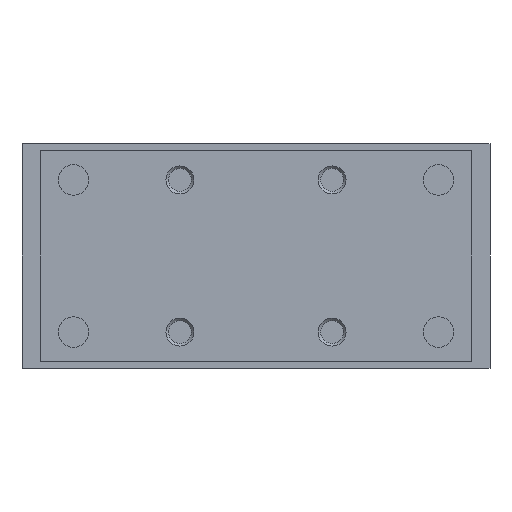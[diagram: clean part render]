
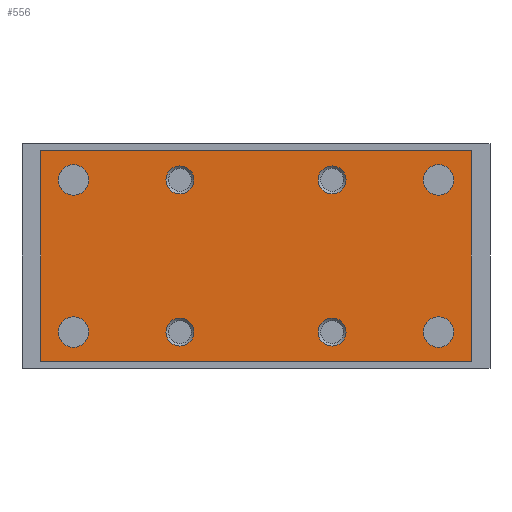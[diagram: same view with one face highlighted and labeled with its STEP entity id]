
A CAD part, left-side view. The second image highlights one B-rep face of the part: STEP entity #556.
In plain terms, the highlighted planar face has unit normal (-1, 0, 0).
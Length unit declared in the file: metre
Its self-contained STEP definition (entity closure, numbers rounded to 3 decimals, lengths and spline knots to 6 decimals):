
#556 = ADVANCED_FACE( '', ( #1285, #1286, #1287, #1288, #1289, #1290, #1291, #1292, #1293 ), #1294, .T. );
#1285 = FACE_BOUND( '', #2105, .T. );
#1286 = FACE_BOUND( '', #2106, .T. );
#1287 = FACE_BOUND( '', #2107, .T. );
#1288 = FACE_BOUND( '', #2108, .T. );
#1289 = FACE_BOUND( '', #2109, .T. );
#1290 = FACE_BOUND( '', #2110, .T. );
#1291 = FACE_BOUND( '', #2111, .T. );
#1292 = FACE_BOUND( '', #2112, .T. );
#1293 = FACE_OUTER_BOUND( '', #2113, .T. );
#1294 = PLANE( '', #2114 );
#2105 = EDGE_LOOP( '', ( #3423 ) );
#2106 = EDGE_LOOP( '', ( #3424 ) );
#2107 = EDGE_LOOP( '', ( #3425 ) );
#2108 = EDGE_LOOP( '', ( #3426 ) );
#2109 = EDGE_LOOP( '', ( #3427 ) );
#2110 = EDGE_LOOP( '', ( #3428 ) );
#2111 = EDGE_LOOP( '', ( #3429 ) );
#2112 = EDGE_LOOP( '', ( #3430 ) );
#2113 = EDGE_LOOP( '', ( #3431, #3432, #3433, #3434 ) );
#2114 = AXIS2_PLACEMENT_3D( '', #3435, #3436, #3437 );
#3423 = ORIENTED_EDGE( '', *, *, #4148, .F. );
#3424 = ORIENTED_EDGE( '', *, *, #4088, .F. );
#3425 = ORIENTED_EDGE( '', *, *, #4237, .F. );
#3426 = ORIENTED_EDGE( '', *, *, #3905, .F. );
#3427 = ORIENTED_EDGE( '', *, *, #4238, .T. );
#3428 = ORIENTED_EDGE( '', *, *, #4037, .F. );
#3429 = ORIENTED_EDGE( '', *, *, #4239, .F. );
#3430 = ORIENTED_EDGE( '', *, *, #4240, .T. );
#3431 = ORIENTED_EDGE( '', *, *, #4086, .T. );
#3432 = ORIENTED_EDGE( '', *, *, #4241, .T. );
#3433 = ORIENTED_EDGE( '', *, *, #4242, .T. );
#3434 = ORIENTED_EDGE( '', *, *, #3887, .T. );
#3435 = CARTESIAN_POINT( '', ( -0.06225, -0.046, -0.0015 ) );
#3436 = DIRECTION( '', ( -1., 0., 0. ) );
#3437 = DIRECTION( '', ( 0., 0., 1. ) );
#3887 = EDGE_CURVE( '', #4494, #4492, #4495, .T. );
#3905 = EDGE_CURVE( '', #4522, #4522, #4523, .T. );
#4037 = EDGE_CURVE( '', #4733, #4733, #4734, .T. );
#4086 = EDGE_CURVE( '', #4492, #4807, #4809, .T. );
#4088 = EDGE_CURVE( '', #4811, #4811, #4812, .T. );
#4148 = EDGE_CURVE( '', #4902, #4902, #4903, .T. );
#4237 = EDGE_CURVE( '', #5004, #5004, #5005, .T. );
#4238 = EDGE_CURVE( '', #5006, #5006, #5007, .T. );
#4239 = EDGE_CURVE( '', #5008, #5008, #5009, .T. );
#4240 = EDGE_CURVE( '', #5010, #5010, #5011, .T. );
#4241 = EDGE_CURVE( '', #4807, #5012, #5013, .T. );
#4242 = EDGE_CURVE( '', #5012, #4494, #5014, .T. );
#4492 = VERTEX_POINT( '', #5446 );
#4494 = VERTEX_POINT( '', #5449 );
#4495 = LINE( '', #5450, #5451 );
#4522 = VERTEX_POINT( '', #5485 );
#4523 = CIRCLE( '', #5486, 0.00325 );
#4733 = VERTEX_POINT( '', #5758 );
#4734 = CIRCLE( '', #5759, 0.003 );
#4807 = VERTEX_POINT( '', #5874 );
#4809 = LINE( '', #5877, #5878 );
#4811 = VERTEX_POINT( '', #5880 );
#4812 = CIRCLE( '', #5881, 0.00325 );
#4902 = VERTEX_POINT( '', #6013 );
#4903 = CIRCLE( '', #6014, 0.00325 );
#5004 = VERTEX_POINT( '', #6123 );
#5005 = CIRCLE( '', #6124, 0.00325 );
#5006 = VERTEX_POINT( '', #6125 );
#5007 = CIRCLE( '', #6126, 0.003 );
#5008 = VERTEX_POINT( '', #6127 );
#5009 = CIRCLE( '', #6128, 0.003 );
#5010 = VERTEX_POINT( '', #6129 );
#5011 = CIRCLE( '', #6130, 0.003 );
#5012 = VERTEX_POINT( '', #6131 );
#5013 = LINE( '', #6132, #6133 );
#5014 = LINE( '', #6134, #6135 );
#5446 = CARTESIAN_POINT( '', ( -0.06225, -0.046, -0.0465 ) );
#5449 = CARTESIAN_POINT( '', ( -0.06225, 0.046, -0.0465 ) );
#5450 = CARTESIAN_POINT( '', ( -0.06225, 0.046, -0.0465 ) );
#5451 = VECTOR( '', #6355, 1. );
#5485 = CARTESIAN_POINT( '', ( -0.06225, 0.03575, -0.00775 ) );
#5486 = AXIS2_PLACEMENT_3D( '', #6378, #6379, #6380 );
#5758 = CARTESIAN_POINT( '', ( -0.06225, 0.01625, -0.03725 ) );
#5759 = AXIS2_PLACEMENT_3D( '', #6548, #6549, #6550 );
#5874 = CARTESIAN_POINT( '', ( -0.06225, -0.046, -0.0015 ) );
#5877 = CARTESIAN_POINT( '', ( -0.06225, -0.046, -0.0465 ) );
#5878 = VECTOR( '', #6615, 1. );
#5880 = CARTESIAN_POINT( '', ( -0.06225, 0.03575, -0.04025 ) );
#5881 = AXIS2_PLACEMENT_3D( '', #6616, #6617, #6618 );
#6013 = CARTESIAN_POINT( '', ( -0.06225, -0.04225, -0.04025 ) );
#6014 = AXIS2_PLACEMENT_3D( '', #6709, #6710, #6711 );
#6123 = CARTESIAN_POINT( '', ( -0.06225, -0.04225, -0.00775 ) );
#6124 = AXIS2_PLACEMENT_3D( '', #6792, #6793, #6794 );
#6125 = CARTESIAN_POINT( '', ( -0.06225, -0.01625, -0.03725 ) );
#6126 = AXIS2_PLACEMENT_3D( '', #6795, #6796, #6797 );
#6127 = CARTESIAN_POINT( '', ( -0.06225, -0.01625, -0.01075 ) );
#6128 = AXIS2_PLACEMENT_3D( '', #6798, #6799, #6800 );
#6129 = CARTESIAN_POINT( '', ( -0.06225, 0.01625, -0.01075 ) );
#6130 = AXIS2_PLACEMENT_3D( '', #6801, #6802, #6803 );
#6131 = CARTESIAN_POINT( '', ( -0.06225, 0.046, -0.0015 ) );
#6132 = CARTESIAN_POINT( '', ( -0.06225, -0.046, -0.0015 ) );
#6133 = VECTOR( '', #6804, 1. );
#6134 = CARTESIAN_POINT( '', ( -0.06225, 0.046, -0.0015 ) );
#6135 = VECTOR( '', #6805, 1. );
#6355 = DIRECTION( '', ( 0., -1., 0. ) );
#6378 = CARTESIAN_POINT( '', ( -0.06225, 0.039, -0.00775 ) );
#6379 = DIRECTION( '', ( -1., 0., 0. ) );
#6380 = DIRECTION( '', ( 0., -1., 0. ) );
#6548 = CARTESIAN_POINT( '', ( -0.06225, 0.01625, -0.04025 ) );
#6549 = DIRECTION( '', ( -1., 0., 0. ) );
#6550 = DIRECTION( '', ( 0., 0., 1. ) );
#6615 = DIRECTION( '', ( 0., 0., 1. ) );
#6616 = CARTESIAN_POINT( '', ( -0.06225, 0.039, -0.04025 ) );
#6617 = DIRECTION( '', ( -1., 0., 0. ) );
#6618 = DIRECTION( '', ( 0., -1., 0. ) );
#6709 = CARTESIAN_POINT( '', ( -0.06225, -0.039, -0.04025 ) );
#6710 = DIRECTION( '', ( -1., 0., 0. ) );
#6711 = DIRECTION( '', ( 0., -1., 0. ) );
#6792 = CARTESIAN_POINT( '', ( -0.06225, -0.039, -0.00775 ) );
#6793 = DIRECTION( '', ( -1., 0., 0. ) );
#6794 = DIRECTION( '', ( 0., -1., 0. ) );
#6795 = CARTESIAN_POINT( '', ( -0.06225, -0.01625, -0.04025 ) );
#6796 = DIRECTION( '', ( 1., 0., 0. ) );
#6797 = DIRECTION( '', ( 0., 0., 1. ) );
#6798 = CARTESIAN_POINT( '', ( -0.06225, -0.01625, -0.00775 ) );
#6799 = DIRECTION( '', ( -1., 0., 0. ) );
#6800 = DIRECTION( '', ( 0., 0., -1. ) );
#6801 = CARTESIAN_POINT( '', ( -0.06225, 0.01625, -0.00775 ) );
#6802 = DIRECTION( '', ( 1., 0., 0. ) );
#6803 = DIRECTION( '', ( 0., 0., -1. ) );
#6804 = DIRECTION( '', ( 0., 1., 0. ) );
#6805 = DIRECTION( '', ( 0., 0., -1. ) );
